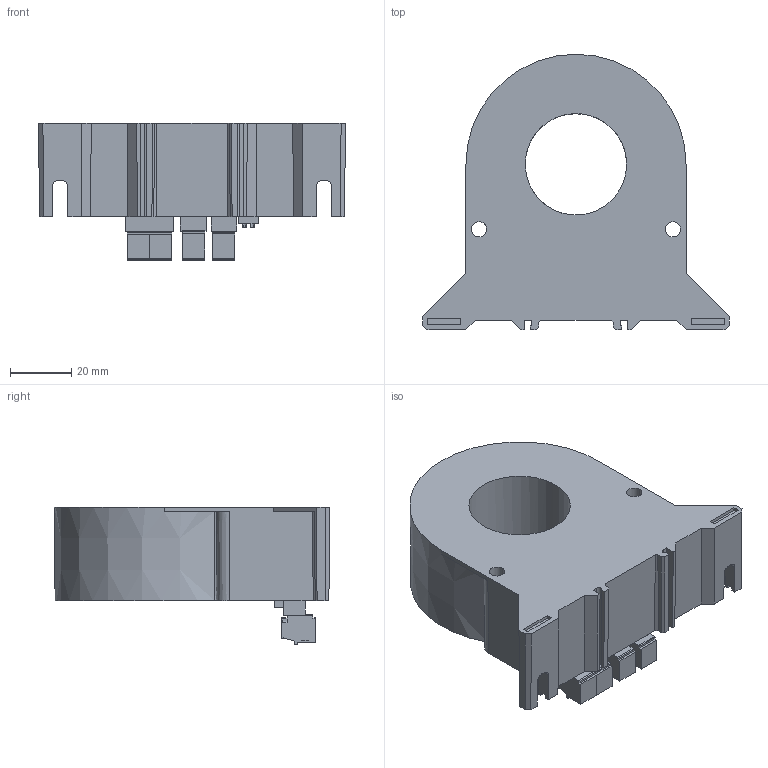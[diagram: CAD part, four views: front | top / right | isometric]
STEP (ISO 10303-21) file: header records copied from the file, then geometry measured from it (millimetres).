
FILE_DESCRIPTION(/* description */ (''),/* implementation_level */ '2;1');
FILE_NAME(/* name */ 'C:\Users\funes\Desktop\QI-POWER-485-300.stp',/* time_stamp */ '2017-09-06T11:03:40+02:00',/* author */ ('funes'),/* organization */ (''),/* preprocessor_version */ 'ST-DEVELOPER v16.1',/* originating_system */ 'Autodesk Inventor LT ',/* authorisation */ '');
FILE_SCHEMA (('AUTOMOTIVE_DESIGN { 1 0 10303 214 3 1 1 }'));
Length unit declared in the file: millimetre
Products named in the file (1): QI-POWER-485-300-LV_rendering
Bounding box: 99.78 x 89.58 x 44.75 mm (x, y, z)
Volume: 136097 mm3; surface area: 72678.8 mm2
Topology: 36 solids, 36 shells, 2481 faces, 6560 edges, 4201 vertices
Faces by surface type: plane 1686, cylinder 593, sphere 72, bspline 57, cone 42, torus 31
Full cylindrical faces by diameter (mm): 0.1 x2, 0.457 x7, 0.6 x3, 0.9 x6, 1 x10, 1.2 x8, 1.6 x13, 2.51 x1, 2.52 x1, 2.8 x8, 2.9 x8, 5 x2, 33 x1, 36.5 x2
Entity records: 78770 total; most frequent: CARTESIAN_POINT 17536, ORIENTED_EDGE 12698, DIRECTION 12268, EDGE_CURVE 6335, LINE 4718, VECTOR 4718, VERTEX_POINT 4150, AXIS2_PLACEMENT_3D 3775
